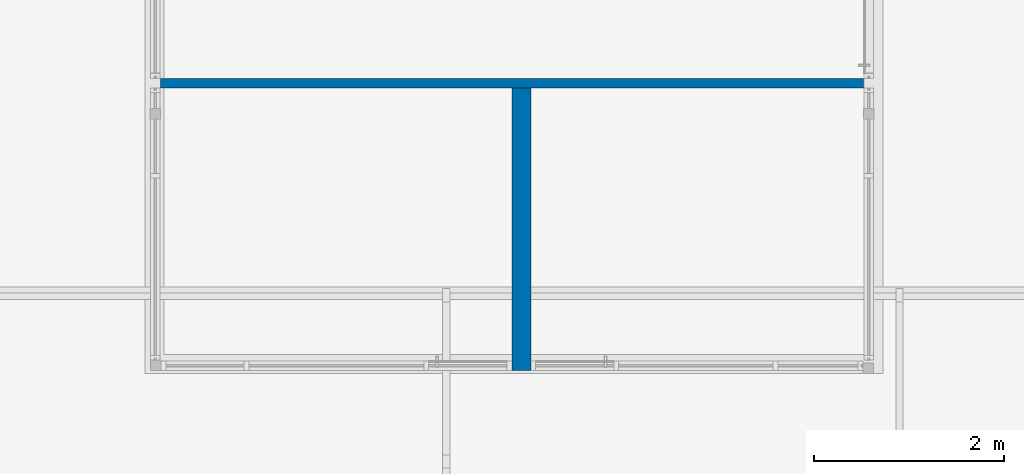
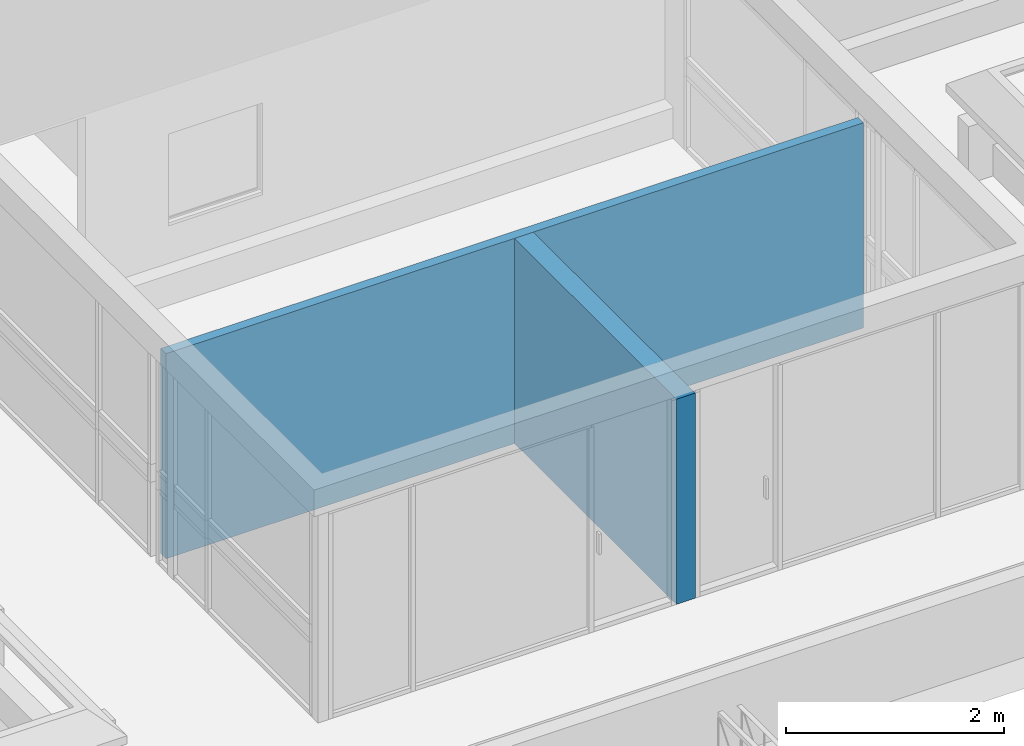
# One storey, part 120 of 153: 2 walls.
"""IFC4 building model written with IfcOpenShell, lengths in metres."""

from ifc_helpers import new_model, entity, si_unit, converted_unit, derived_unit, direction, frame, origin, place, context, subcontext, project, spatial, indexed_curve, outline, extrude, material, type_object, element, save


model = new_model("IFC4")

# Units and contexts
model_context = context("Model", 3, precision=1e-05, world=origin(), true_north=direction((6.123031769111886e-17, 1.0)))
body_context = subcontext(model_context, "Body", "Model", "MODEL_VIEW")
ifc_project = project(units=[si_unit("LENGTHUNIT", "METRE"), si_unit("AREAUNIT", "SQUARE_METRE"), si_unit("VOLUMEUNIT", "CUBIC_METRE"), converted_unit("PLANEANGLEUNIT", "DEGREE", entity("IfcRatioMeasure", 0.017453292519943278), si_unit("PLANEANGLEUNIT", "RADIAN"), dimensions=[0, 0, 0, 0, 0, 0, 0]), si_unit("MASSUNIT", "GRAM", prefix="KILO"), derived_unit("MASSDENSITYUNIT", [(si_unit("MASSUNIT", "GRAM", prefix="KILO"), 1), (si_unit("LENGTHUNIT", "METRE"), -3)]), derived_unit("MOMENTOFINERTIAUNIT", [(si_unit("LENGTHUNIT", "METRE"), 4)]), si_unit("TIMEUNIT", "SECOND"), si_unit("FREQUENCYUNIT", "HERTZ"), si_unit("THERMODYNAMICTEMPERATUREUNIT", "DEGREE_CELSIUS"), derived_unit("THERMALTRANSMITTANCEUNIT", [(si_unit("MASSUNIT", "GRAM", prefix="KILO"), 1), (si_unit("THERMODYNAMICTEMPERATUREUNIT", "KELVIN"), -1), (si_unit("TIMEUNIT", "SECOND"), -3)]), derived_unit("VOLUMETRICFLOWRATEUNIT", [(si_unit("LENGTHUNIT", "METRE"), 3), (si_unit("TIMEUNIT", "SECOND"), -1)]), derived_unit("MASSFLOWRATEUNIT", [(si_unit("MASSUNIT", "GRAM", prefix="KILO"), 1), (si_unit("TIMEUNIT", "SECOND"), -1)]), derived_unit("ROTATIONALFREQUENCYUNIT", [(si_unit("TIMEUNIT", "SECOND"), -1)]), si_unit("ELECTRICCURRENTUNIT", "AMPERE"), si_unit("ELECTRICVOLTAGEUNIT", "VOLT"), si_unit("POWERUNIT", "WATT"), si_unit("FORCEUNIT", "NEWTON", prefix="KILO"), si_unit("ILLUMINANCEUNIT", "LUX"), si_unit("LUMINOUSFLUXUNIT", "LUMEN"), si_unit("LUMINOUSINTENSITYUNIT", "CANDELA"), derived_unit("USERDEFINED", [(si_unit("MASSUNIT", "GRAM", prefix="KILO"), -1), (si_unit("LENGTHUNIT", "METRE"), -2), (si_unit("TIMEUNIT", "SECOND"), 3), (si_unit("LUMINOUSFLUXUNIT", "LUMEN"), 1)]), derived_unit("SOUNDPOWERUNIT", [(si_unit("MASSUNIT", "GRAM", prefix="KILO"), 1), (si_unit("LENGTHUNIT", "METRE"), 2), (si_unit("TIMEUNIT", "SECOND"), -3)]), derived_unit("SOUNDPRESSUREUNIT", [(si_unit("MASSUNIT", "GRAM", prefix="KILO"), 1), (si_unit("LENGTHUNIT", "METRE"), -1), (si_unit("TIMEUNIT", "SECOND"), -2)]), derived_unit("LINEARVELOCITYUNIT", [(si_unit("LENGTHUNIT", "METRE"), 1), (si_unit("TIMEUNIT", "SECOND"), -1)]), si_unit("PRESSUREUNIT", "PASCAL"), derived_unit("USERDEFINED", [(si_unit("LENGTHUNIT", "METRE"), -2), (si_unit("MASSUNIT", "GRAM", prefix="KILO"), 1), (si_unit("TIMEUNIT", "SECOND"), -2)]), derived_unit("LINEARFORCEUNIT", [(si_unit("MASSUNIT", "GRAM", prefix="KILO"), 1), (si_unit("LENGTHUNIT", "METRE"), 1), (si_unit("TIMEUNIT", "SECOND"), -2), (si_unit("LENGTHUNIT", "METRE"), -1)]), derived_unit("PLANARFORCEUNIT", [(si_unit("MASSUNIT", "GRAM", prefix="KILO"), 1), (si_unit("LENGTHUNIT", "METRE"), 1), (si_unit("TIMEUNIT", "SECOND"), -2), (si_unit("LENGTHUNIT", "METRE"), -2)])], contexts=[model_context])

# Site, building, storey
site_placement = place(None, origin())
site = spatial("IfcSite", under=ifc_project, at=site_placement, Name="Superficie", CompositionType="ELEMENT")
building_placement = place(site_placement, origin())
building = spatial("IfcBuilding", under=site, at=building_placement, CompositionType="ELEMENT")
storey_placement = place(building_placement, frame((0.0, 0.0, 3.5999999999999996)))
storey = spatial("IfcBuildingStorey", under=building, at=storey_placement, Name="Nivel 1", CompositionType="ELEMENT", Elevation=3.5999999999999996)

# Walls
ifc_material = material(Name="Muro por defecto", Category="Varios")
wall_type_1 = type_object("IfcWallType", Name="Muro básico:Por defecto - 20 cm", PredefinedType="STANDARD")
wall_1_placement = place(storey_placement, frame((6.941799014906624, -1.0017564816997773, 0.0), z_axis=(0.0, 0.0, 1.0), x_axis=(0.0, 1.0, 0.0)))
element("IfcWall", 1, at=wall_1_placement, inside=storey, type_object=wall_type_1, material=ifc_material, Name="Muro básico:Por defecto - 20 cm", ObjectType="Muro básico:Por defecto - 20 cm", PredefinedType="NOTDEFINED", context=body_context, shape_type="SweptSolid", body=[
    extrude(outline(indexed_curve([(2.973839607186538, 0.09999999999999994), (-1.4324399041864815e-16, 0.1), (1.4324399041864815e-16, -0.1), (2.973839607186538, -0.10000000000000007), (2.973839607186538, 0.09999999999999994)], self_intersect=False)), origin(), (0.0, 0.0, 1.0), 2.299999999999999),
])
wall_type_2 = type_object("IfcWallType", Name="Muro básico:Por defecto - 10 cm", PredefinedType="STANDARD")
wall_2_placement = place(storey_placement, frame((3.1467990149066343, 2.022083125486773, 0.0)))
element("IfcWall", 2, at=wall_2_placement, inside=storey, type_object=wall_type_2, material=ifc_material, Name="Muro básico:Por defecto - 10 cm", ObjectType="Muro básico:Por defecto - 10 cm", PredefinedType="NOTDEFINED", context=body_context, shape_type="SweptSolid", body=[
    extrude(outline(indexed_curve([(7.394999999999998, 0.05), (-1.610755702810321e-16, 0.05), (1.610755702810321e-16, -0.05), (7.394999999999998, -0.05), (7.394999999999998, 0.05)], self_intersect=False)), origin(), (0.0, 0.0, 1.0), 2.299999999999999),
])

save(model, "model.ifc")
